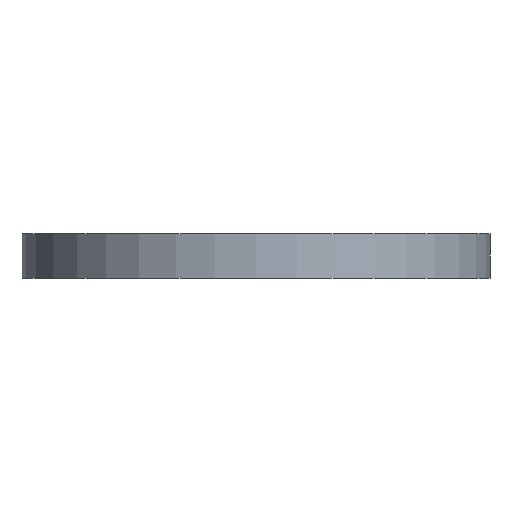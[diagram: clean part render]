
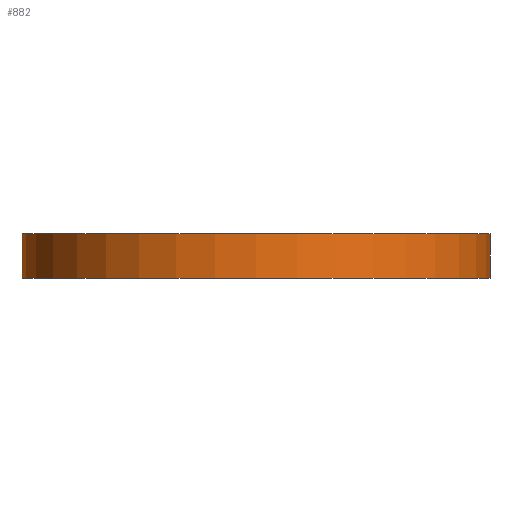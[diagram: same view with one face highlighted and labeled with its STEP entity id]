
A CAD part, front view. The second image highlights one B-rep face of the part: STEP entity #882.
In plain terms, the highlighted cylindrical face has radius 187.5 mm (diameter 375 mm), a partial arc.
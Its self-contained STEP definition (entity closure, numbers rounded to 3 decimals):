
#7 = LINE ( 'NONE', #361, #102 ) ;
#28 = EDGE_CURVE ( 'NONE', #853, #415, #738, .T. ) ;
#31 = CIRCLE ( 'NONE', #34, 187.5 ) ;
#34 = AXIS2_PLACEMENT_3D ( 'NONE', #865, #142, #501 ) ;
#102 = VECTOR ( 'NONE', #705, 1000. ) ;
#107 = CARTESIAN_POINT ( 'NONE',  ( -187.5, 0., 0. ) ) ;
#108 = CIRCLE ( 'NONE', #113, 187.5 ) ;
#113 = AXIS2_PLACEMENT_3D ( 'NONE', #897, #195, #557 ) ;
#142 = DIRECTION ( 'NONE',  ( 0., 0., 1. ) ) ;
#171 = AXIS2_PLACEMENT_3D ( 'NONE', #673, #926, #239 ) ;
#195 = DIRECTION ( 'NONE',  ( 0., 0., 1. ) ) ;
#239 = DIRECTION ( 'NONE',  ( 1., 0., 0. ) ) ;
#325 = DIRECTION ( 'NONE',  ( 0., 0., 1. ) ) ;
#329 = CYLINDRICAL_SURFACE ( 'NONE', #171, 187.5 ) ;
#361 = CARTESIAN_POINT ( 'NONE',  ( 187.5, 0., -98. ) ) ;
#385 = CARTESIAN_POINT ( 'NONE',  ( 187.5, 0., -36. ) ) ;
#394 = CARTESIAN_POINT ( 'NONE',  ( -187.5, 0., -36. ) ) ;
#415 = VERTEX_POINT ( 'NONE', #107 ) ;
#501 = DIRECTION ( 'NONE',  ( 1., 0., 0. ) ) ;
#525 = EDGE_CURVE ( 'NONE', #853, #799, #31, .T. ) ;
#528 = CARTESIAN_POINT ( 'NONE',  ( 187.5, 0., 0. ) ) ;
#557 = DIRECTION ( 'NONE',  ( 1., 0., 0. ) ) ;
#600 = VECTOR ( 'NONE', #325, 1000. ) ;
#612 = VERTEX_POINT ( 'NONE', #528 ) ;
#673 = CARTESIAN_POINT ( 'NONE',  ( 0., 0., -98. ) ) ;
#705 = DIRECTION ( 'NONE',  ( 0., 0., 1. ) ) ;
#719 = EDGE_CURVE ( 'NONE', #799, #612, #7, .T. ) ;
#738 = LINE ( 'NONE', #1006, #600 ) ;
#741 = EDGE_CURVE ( 'NONE', #415, #612, #108, .T. ) ;
#799 = VERTEX_POINT ( 'NONE', #385 ) ;
#853 = VERTEX_POINT ( 'NONE', #394 ) ;
#865 = CARTESIAN_POINT ( 'NONE',  ( 0., 0., -36. ) ) ;
#882 = ADVANCED_FACE ( 'NONE', ( #1007 ), #329, .T. ) ;
#897 = CARTESIAN_POINT ( 'NONE',  ( 0., 0., 0. ) ) ;
#926 = DIRECTION ( 'NONE',  ( 0., 0., 1. ) ) ;
#965 = EDGE_LOOP ( 'NONE', ( #996, #1008, #998, #999 ) ) ;
#996 = ORIENTED_EDGE ( 'NONE', *, *, #28, .F. ) ;
#998 = ORIENTED_EDGE ( 'NONE', *, *, #719, .T. ) ;
#999 = ORIENTED_EDGE ( 'NONE', *, *, #741, .F. ) ;
#1006 = CARTESIAN_POINT ( 'NONE',  ( -187.5, 0., -98. ) ) ;
#1007 = FACE_OUTER_BOUND ( 'NONE', #965, .T. ) ;
#1008 = ORIENTED_EDGE ( 'NONE', *, *, #525, .T. ) ;
